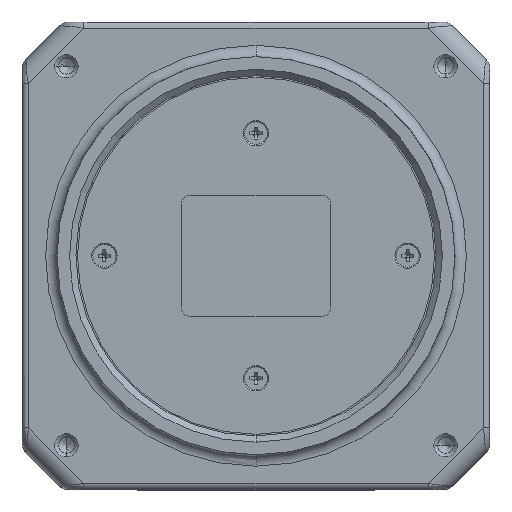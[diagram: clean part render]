
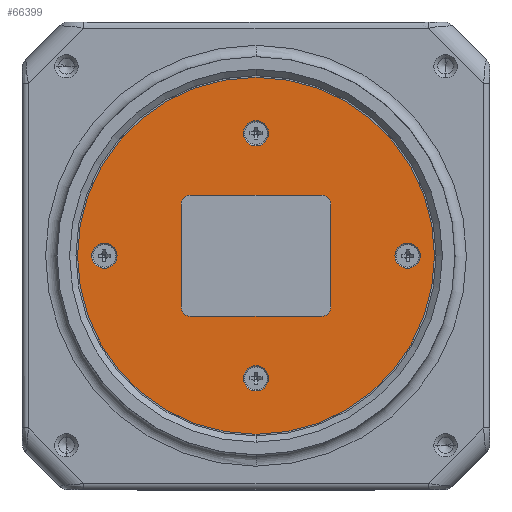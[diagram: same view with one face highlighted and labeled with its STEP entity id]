
A CAD part, top view. The second image highlights one B-rep face of the part: STEP entity #66399.
In plain terms, the highlighted planar face has unit normal (0, 0, 1).
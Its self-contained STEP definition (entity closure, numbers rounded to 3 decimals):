
#24062=CARTESIAN_POINT('',(0.,0.,8.67));
#24063=DIRECTION('',(0.,0.,-1.));
#24064=DIRECTION('',(0.,-1.,0.));
#24065=AXIS2_PLACEMENT_3D('',#24062,#24063,#24064);
#24067=CARTESIAN_POINT('',(0.,0.,8.67));
#24068=DIRECTION('',(0.,0.,-1.));
#24069=DIRECTION('',(0.,1.,0.));
#24070=AXIS2_PLACEMENT_3D('',#24067,#24068,#24069);
#24072=CARTESIAN_POINT('',(-10.35,8.1,8.67));
#24073=DIRECTION('',(0.,0.,1.));
#24074=DIRECTION('',(0.,1.,0.));
#24075=AXIS2_PLACEMENT_3D('',#24072,#24073,#24074);
#24077=CARTESIAN_POINT('',(-10.35,-8.1,8.67));
#24078=DIRECTION('',(0.,0.,1.));
#24079=DIRECTION('',(-1.,0.,0.));
#24080=AXIS2_PLACEMENT_3D('',#24077,#24078,#24079);
#24082=CARTESIAN_POINT('',(10.35,-8.1,8.67));
#24083=DIRECTION('',(0.,0.,1.));
#24084=DIRECTION('',(0.,-1.,0.));
#24085=AXIS2_PLACEMENT_3D('',#24082,#24083,#24084);
#24087=CARTESIAN_POINT('',(10.35,8.1,8.67));
#24088=DIRECTION('',(0.,0.,1.));
#24089=DIRECTION('',(1.,0.,0.));
#24090=AXIS2_PLACEMENT_3D('',#24087,#24088,#24089);
#24092=CARTESIAN_POINT('',(-24.,0.,8.67));
#24093=DIRECTION('',(0.,0.,1.));
#24094=DIRECTION('',(0.,-1.,0.));
#24095=AXIS2_PLACEMENT_3D('',#24092,#24093,#24094);
#24097=CARTESIAN_POINT('',(-24.,0.,8.67));
#24098=DIRECTION('',(0.,0.,1.));
#24099=DIRECTION('',(0.,1.,0.));
#24100=AXIS2_PLACEMENT_3D('',#24097,#24098,#24099);
#24102=CARTESIAN_POINT('',(0.,19.4,8.67));
#24103=DIRECTION('',(0.,0.,1.));
#24104=DIRECTION('',(0.,-1.,0.));
#24105=AXIS2_PLACEMENT_3D('',#24102,#24103,#24104);
#24107=CARTESIAN_POINT('',(0.,19.4,8.67));
#24108=DIRECTION('',(0.,0.,1.));
#24109=DIRECTION('',(0.,1.,0.));
#24110=AXIS2_PLACEMENT_3D('',#24107,#24108,#24109);
#24112=CARTESIAN_POINT('',(0.,-19.4,8.67));
#24113=DIRECTION('',(0.,0.,1.));
#24114=DIRECTION('',(0.,-1.,0.));
#24115=AXIS2_PLACEMENT_3D('',#24112,#24113,#24114);
#24117=CARTESIAN_POINT('',(0.,-19.4,8.67));
#24118=DIRECTION('',(0.,0.,1.));
#24119=DIRECTION('',(0.,1.,0.));
#24120=AXIS2_PLACEMENT_3D('',#24117,#24118,#24119);
#24122=CARTESIAN_POINT('',(24.,0.,8.67));
#24123=DIRECTION('',(0.,0.,1.));
#24124=DIRECTION('',(0.,-1.,0.));
#24125=AXIS2_PLACEMENT_3D('',#24122,#24123,#24124);
#24127=CARTESIAN_POINT('',(24.,0.,8.67));
#24128=DIRECTION('',(0.,0.,1.));
#24129=DIRECTION('',(0.,1.,0.));
#24130=AXIS2_PLACEMENT_3D('',#24127,#24128,#24129);
#24132=DIRECTION('',(1.,0.,0.));
#24133=VECTOR('',#24132,20.7);
#24134=CARTESIAN_POINT('',(-10.35,9.6,8.67));
#24135=LINE('',#24134,#24133);
#24172=DIRECTION('',(0.,-1.,0.));
#24173=VECTOR('',#24172,16.2);
#24174=CARTESIAN_POINT('',(11.85,8.1,8.67));
#24175=LINE('',#24174,#24173);
#24188=DIRECTION('',(-1.,0.,0.));
#24189=VECTOR('',#24188,20.7);
#24190=CARTESIAN_POINT('',(10.35,-9.6,8.67));
#24191=LINE('',#24190,#24189);
#24204=DIRECTION('',(0.,1.,0.));
#24205=VECTOR('',#24204,16.2);
#24206=CARTESIAN_POINT('',(-11.85,-8.1,8.67));
#24207=LINE('',#24206,#24205);
#28707=CARTESIAN_POINT('',(0.,-28.25,8.67));
#28708=VERTEX_POINT('',#28707);
#28709=CARTESIAN_POINT('',(0.,28.25,8.67));
#28710=VERTEX_POINT('',#28709);
#28711=CARTESIAN_POINT('',(-10.35,9.6,8.67));
#28712=CARTESIAN_POINT('',(-11.85,8.1,8.67));
#28713=VERTEX_POINT('',#28711);
#28714=VERTEX_POINT('',#28712);
#28715=CARTESIAN_POINT('',(-11.85,-8.1,8.67));
#28716=CARTESIAN_POINT('',(-10.35,-9.6,8.67));
#28717=VERTEX_POINT('',#28715);
#28718=VERTEX_POINT('',#28716);
#28719=CARTESIAN_POINT('',(10.35,-9.6,8.67));
#28720=CARTESIAN_POINT('',(11.85,-8.1,8.67));
#28721=VERTEX_POINT('',#28719);
#28722=VERTEX_POINT('',#28720);
#28723=CARTESIAN_POINT('',(11.85,8.1,8.67));
#28724=CARTESIAN_POINT('',(10.35,9.6,8.67));
#28725=VERTEX_POINT('',#28723);
#28726=VERTEX_POINT('',#28724);
#28727=CARTESIAN_POINT('',(-24.,-2.,8.67));
#28728=CARTESIAN_POINT('',(-24.,2.,8.67));
#28729=VERTEX_POINT('',#28727);
#28730=VERTEX_POINT('',#28728);
#28731=CARTESIAN_POINT('',(0.,17.4,8.67));
#28732=CARTESIAN_POINT('',(0.,21.4,8.67));
#28733=VERTEX_POINT('',#28731);
#28734=VERTEX_POINT('',#28732);
#28735=CARTESIAN_POINT('',(0.,-21.4,8.67));
#28736=CARTESIAN_POINT('',(0.,-17.4,8.67));
#28737=VERTEX_POINT('',#28735);
#28738=VERTEX_POINT('',#28736);
#28739=CARTESIAN_POINT('',(24.,-2.,8.67));
#28740=CARTESIAN_POINT('',(24.,2.,8.67));
#28741=VERTEX_POINT('',#28739);
#28742=VERTEX_POINT('',#28740);
#66348=CARTESIAN_POINT('',(0.,0.,8.67));
#66349=DIRECTION('',(0.,0.,1.));
#66350=DIRECTION('',(0.,1.,0.));
#66351=AXIS2_PLACEMENT_3D('',#66348,#66349,#66350);
#66352=PLANE('',#66351);
#66353=ORIENTED_EDGE('',*,*,#66328,.T.);
#66354=ORIENTED_EDGE('',*,*,#66342,.T.);
#66355=EDGE_LOOP('',(#66353,#66354));
#66356=FACE_OUTER_BOUND('',#66355,.F.);
#66358=ORIENTED_EDGE('',*,*,#66357,.F.);
#66360=ORIENTED_EDGE('',*,*,#66359,.T.);
#66362=ORIENTED_EDGE('',*,*,#66361,.F.);
#66364=ORIENTED_EDGE('',*,*,#66363,.T.);
#66366=ORIENTED_EDGE('',*,*,#66365,.F.);
#66368=ORIENTED_EDGE('',*,*,#66367,.T.);
#66370=ORIENTED_EDGE('',*,*,#66369,.F.);
#66372=ORIENTED_EDGE('',*,*,#66371,.T.);
#66373=EDGE_LOOP('',(#66358,#66360,#66362,#66364,#66366,#66368,#66370,#66372));
#66374=FACE_BOUND('',#66373,.F.);
#66376=ORIENTED_EDGE('',*,*,#66375,.T.);
#66378=ORIENTED_EDGE('',*,*,#66377,.T.);
#66379=EDGE_LOOP('',(#66376,#66378));
#66380=FACE_BOUND('',#66379,.F.);
#66382=ORIENTED_EDGE('',*,*,#66381,.T.);
#66384=ORIENTED_EDGE('',*,*,#66383,.T.);
#66385=EDGE_LOOP('',(#66382,#66384));
#66386=FACE_BOUND('',#66385,.F.);
#66388=ORIENTED_EDGE('',*,*,#66387,.T.);
#66390=ORIENTED_EDGE('',*,*,#66389,.T.);
#66391=EDGE_LOOP('',(#66388,#66390));
#66392=FACE_BOUND('',#66391,.F.);
#66394=ORIENTED_EDGE('',*,*,#66393,.T.);
#66396=ORIENTED_EDGE('',*,*,#66395,.T.);
#66397=EDGE_LOOP('',(#66394,#66396));
#66398=FACE_BOUND('',#66397,.F.);
#66399=ADVANCED_FACE('',(#66356,#66374,#66380,#66386,#66392,#66398),#66352,.T.);
#24066=CIRCLE('',#24065,28.25);
#24071=CIRCLE('',#24070,28.25);
#24076=CIRCLE('',#24075,1.5);
#24081=CIRCLE('',#24080,1.5);
#24086=CIRCLE('',#24085,1.5);
#24091=CIRCLE('',#24090,1.5);
#24096=CIRCLE('',#24095,2.);
#24101=CIRCLE('',#24100,2.);
#24106=CIRCLE('',#24105,2.);
#24111=CIRCLE('',#24110,2.);
#24116=CIRCLE('',#24115,2.);
#24121=CIRCLE('',#24120,2.);
#24126=CIRCLE('',#24125,2.);
#24131=CIRCLE('',#24130,2.);
#66328=EDGE_CURVE('',#28708,#28710,#24066,.T.);
#66342=EDGE_CURVE('',#28710,#28708,#24071,.T.);
#66357=EDGE_CURVE('',#28713,#28726,#24135,.T.);
#66359=EDGE_CURVE('',#28713,#28714,#24076,.T.);
#66361=EDGE_CURVE('',#28717,#28714,#24207,.T.);
#66363=EDGE_CURVE('',#28717,#28718,#24081,.T.);
#66365=EDGE_CURVE('',#28721,#28718,#24191,.T.);
#66367=EDGE_CURVE('',#28721,#28722,#24086,.T.);
#66369=EDGE_CURVE('',#28725,#28722,#24175,.T.);
#66371=EDGE_CURVE('',#28725,#28726,#24091,.T.);
#66375=EDGE_CURVE('',#28729,#28730,#24096,.T.);
#66377=EDGE_CURVE('',#28730,#28729,#24101,.T.);
#66381=EDGE_CURVE('',#28733,#28734,#24106,.T.);
#66383=EDGE_CURVE('',#28734,#28733,#24111,.T.);
#66387=EDGE_CURVE('',#28737,#28738,#24116,.T.);
#66389=EDGE_CURVE('',#28738,#28737,#24121,.T.);
#66393=EDGE_CURVE('',#28741,#28742,#24126,.T.);
#66395=EDGE_CURVE('',#28742,#28741,#24131,.T.);
